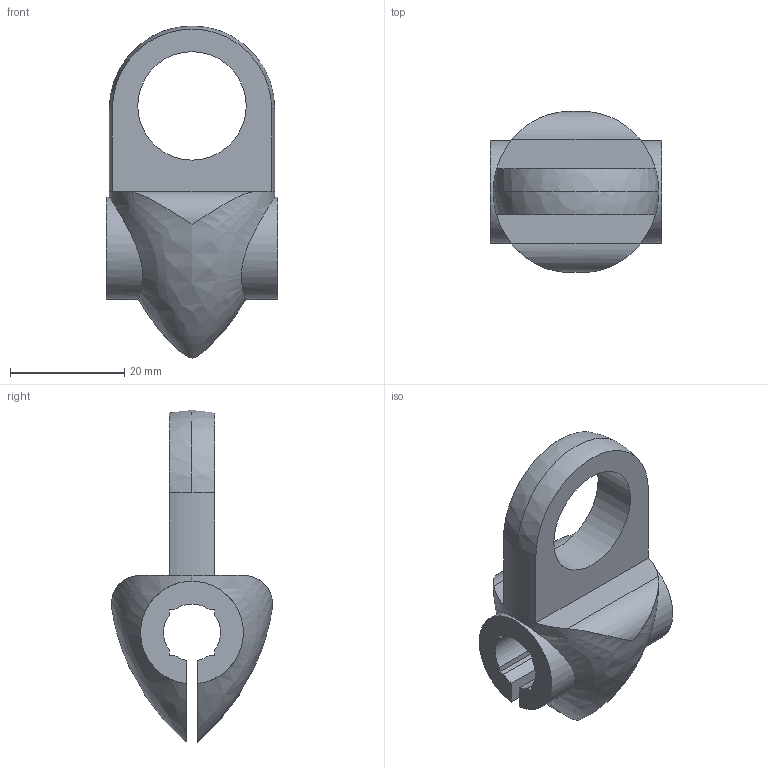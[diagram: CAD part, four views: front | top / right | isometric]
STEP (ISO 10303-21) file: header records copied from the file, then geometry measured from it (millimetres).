
FILE_DESCRIPTION((''),'2;1');
FILE_NAME('MOFC','2002-12-27T',('Lipro doo'),('Lipro d.o.o.'),'PRO/ENGINEER BY PARAMETRIC TECHNOLOGY CORPORATION, 2001150','PRO/ENGINEER BY PARAMETRIC TECHNOLOGY CORPORATION, 2001150','');
FILE_SCHEMA(('CONFIG_CONTROL_DESIGN'));
Length unit declared in the file: millimetre
Products named in the file (1): MOFC
Bounding box: 30 x 28.23 x 58.18 mm (x, y, z)
Volume: 13365.1 mm3; surface area: 5933.6 mm2
Topology: 1 solids, 1 shells, 33 faces, 94 edges, 61 vertices
Faces by surface type: plane 16, cylinder 13, bspline 2, sphere 2
Entity records: 1450 total; most frequent: CARTESIAN_POINT 556, ORIENTED_EDGE 184, DIRECTION 174, EDGE_CURVE 92, AXIS2_PLACEMENT_3D 63, VERTEX_POINT 61, VECTOR 48, LINE 48
